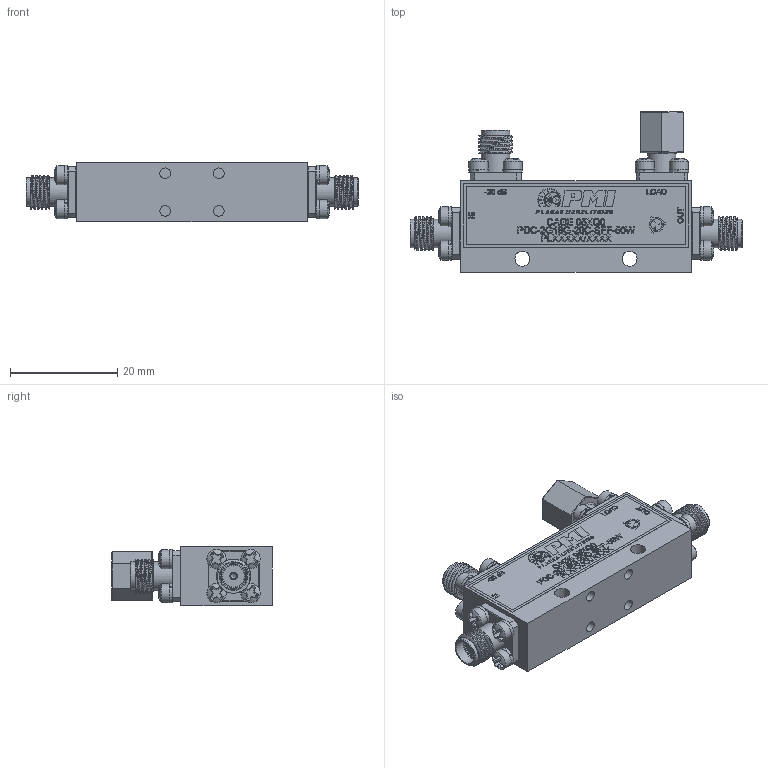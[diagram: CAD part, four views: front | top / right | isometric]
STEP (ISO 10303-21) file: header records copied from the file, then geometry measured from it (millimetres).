
FILE_DESCRIPTION (( 'STEP AP214' ), '1' );
FILE_NAME ('PDC-2G18G-20C-SFF-50W.STEP', '2026-08-21T21:36:19', ( '' ), ( '' ), 'SwSTEP 2.0', 'SolidWorks 2025', '' );
FILE_SCHEMA (( 'AUTOMOTIVE_DESIGN' ));
Length unit declared in the file: inch
Products named in the file (1): PDC-2G18G-20C-SFF-50W
Bounding box: 61.9 x 29.87 x 11.05 mm (x, y, z)
Volume: 9724.4 mm3; surface area: 8188.5 mm2
Topology: 54 solids, 55 shells, 1045 faces, 3066 edges, 2290 vertices
Faces by surface type: plane 610, cylinder 220, torus 87, cone 87, sphere 32, bspline 9
Full cylindrical faces by diameter (mm): 0.305 x3, 0.381 x3, 0.508 x1, 0.635 x3, 0.762 x1, 1.016 x3, 1.27 x3, 1.702 x12, 1.727 x4, 1.943 x1, 1.999 x4, 2.184 x16, 2.794 x2, 3.302 x3, 3.556 x16, 4.191 x6, 4.572 x1, 4.597 x3, 5.283 x12, 6.35 x2, 6.604 x1
Entity records: 53756 total; most frequent: CARTESIAN_POINT 13764, ORIENTED_EDGE 5598, DIRECTION 5240, EDGE_CURVE 2799, VERTEX_POINT 2250, AXIS2_PLACEMENT_3D 1933, EDGE_LOOP 1457, VECTOR 1374
